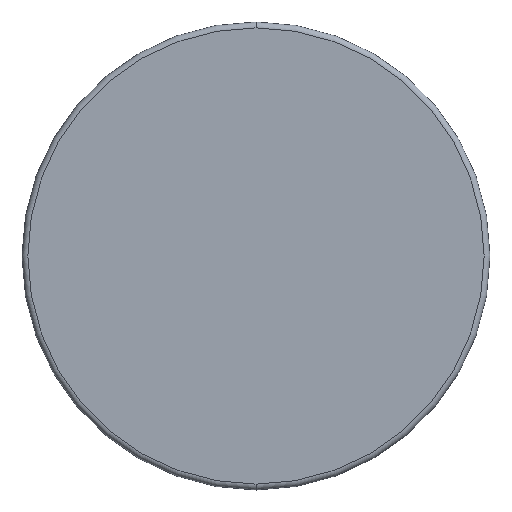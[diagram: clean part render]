
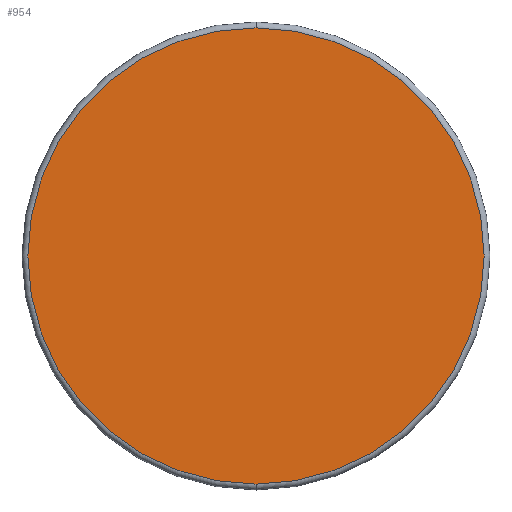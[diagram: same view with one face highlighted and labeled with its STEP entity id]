
A CAD part, front view. The second image highlights one B-rep face of the part: STEP entity #954.
In plain terms, the highlighted planar face has unit normal (0, -1, 0).
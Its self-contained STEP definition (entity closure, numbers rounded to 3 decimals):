
#4 = CARTESIAN_POINT ( 'NONE',  ( 0., 0., 0. ) ) ;
#110 = AXIS2_PLACEMENT_3D ( 'NONE', #634, #174, #617 ) ;
#127 = CIRCLE ( 'NONE', #110, 39. ) ;
#134 = DIRECTION ( 'NONE',  ( 0., -1., 0. ) ) ;
#140 = CARTESIAN_POINT ( 'NONE',  ( 0., 0., 0. ) ) ;
#143 = EDGE_LOOP ( 'NONE', ( #1052, #788 ) ) ;
#174 = DIRECTION ( 'NONE',  ( 0., -1., 0. ) ) ;
#304 = VERTEX_POINT ( 'NONE', #1140 ) ;
#334 = VERTEX_POINT ( 'NONE', #1035 ) ;
#372 = PLANE ( 'NONE',  #986 ) ;
#373 = EDGE_CURVE ( 'NONE', #334, #304, #1184, .T. ) ;
#505 = DIRECTION ( 'NONE',  ( 0., 0., -1. ) ) ;
#617 = DIRECTION ( 'NONE',  ( 0., 0., -1. ) ) ;
#634 = CARTESIAN_POINT ( 'NONE',  ( 0., 0., 0. ) ) ;
#660 = FACE_OUTER_BOUND ( 'NONE', #143, .T. ) ;
#747 = DIRECTION ( 'NONE',  ( 0., 0., 1. ) ) ;
#788 = ORIENTED_EDGE ( 'NONE', *, *, #869, .T. ) ;
#830 = DIRECTION ( 'NONE',  ( 0., 1., 0. ) ) ;
#869 = EDGE_CURVE ( 'NONE', #304, #334, #127, .T. ) ;
#954 = ADVANCED_FACE ( 'NONE', ( #660 ), #372, .F. ) ;
#986 = AXIS2_PLACEMENT_3D ( 'NONE', #4, #830, #747 ) ;
#1026 = AXIS2_PLACEMENT_3D ( 'NONE', #140, #134, #505 ) ;
#1035 = CARTESIAN_POINT ( 'NONE',  ( 0., 0., -39. ) ) ;
#1052 = ORIENTED_EDGE ( 'NONE', *, *, #373, .T. ) ;
#1140 = CARTESIAN_POINT ( 'NONE',  ( 0., 0., 39. ) ) ;
#1184 = CIRCLE ( 'NONE', #1026, 39. ) ;
